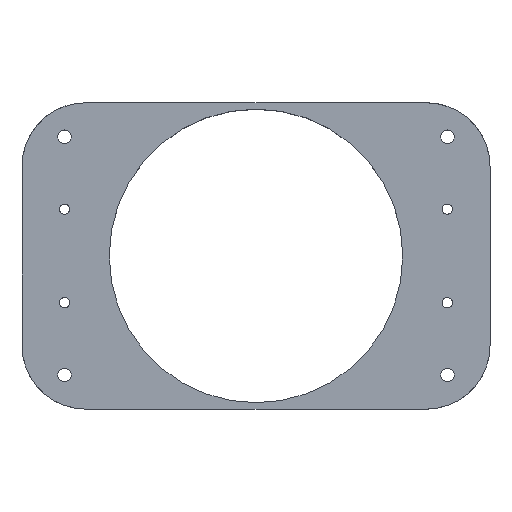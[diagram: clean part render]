
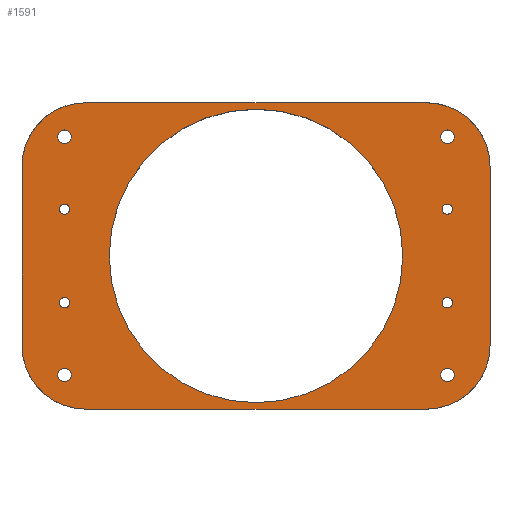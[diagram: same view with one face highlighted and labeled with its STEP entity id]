
A CAD part, top view. The second image highlights one B-rep face of the part: STEP entity #1591.
In plain terms, the highlighted planar face has unit normal (0, 0, 1).
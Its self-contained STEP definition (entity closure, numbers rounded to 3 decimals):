
#35=FACE_BOUND('',#353,.T.);
#36=FACE_BOUND('',#354,.T.);
#37=FACE_BOUND('',#355,.T.);
#38=FACE_BOUND('',#356,.T.);
#39=FACE_BOUND('',#357,.T.);
#40=FACE_BOUND('',#358,.T.);
#41=FACE_BOUND('',#359,.T.);
#42=FACE_BOUND('',#360,.T.);
#43=FACE_BOUND('',#361,.T.);
#167=PLANE('',#1714);
#250=FACE_OUTER_BOUND('',#352,.T.);
#352=EDGE_LOOP('',(#1432,#1433,#1434,#1435,#1436,#1437,#1438,#1439));
#353=EDGE_LOOP('',(#1440,#1441));
#354=EDGE_LOOP('',(#1442,#1443));
#355=EDGE_LOOP('',(#1444));
#356=EDGE_LOOP('',(#1445));
#357=EDGE_LOOP('',(#1446));
#358=EDGE_LOOP('',(#1447));
#359=EDGE_LOOP('',(#1448));
#360=EDGE_LOOP('',(#1449));
#361=EDGE_LOOP('',(#1450));
#374=CIRCLE('',#1606,1.2);
#376=CIRCLE('',#1609,1.2);
#378=CIRCLE('',#1612,1.2);
#379=CIRCLE('',#1614,1.2);
#395=CIRCLE('',#1688,1.6);
#396=CIRCLE('',#1690,1.6);
#397=CIRCLE('',#1692,1.6);
#398=CIRCLE('',#1694,1.6);
#399=CIRCLE('',#1696,1.2);
#400=CIRCLE('',#1698,1.2);
#409=CIRCLE('',#1712,15.);
#410=CIRCLE('',#1715,15.);
#411=CIRCLE('',#1716,15.);
#412=CIRCLE('',#1717,15.);
#413=CIRCLE('',#1718,34.5);
#528=LINE('',#2946,#650);
#530=LINE('',#2950,#652);
#531=LINE('',#2954,#653);
#532=LINE('',#2958,#654);
#650=VECTOR('',#2065,10.);
#652=VECTOR('',#2069,10.);
#653=VECTOR('',#2072,10.);
#654=VECTOR('',#2075,10.);
#661=VERTEX_POINT('',#2114);
#664=VERTEX_POINT('',#2119);
#667=VERTEX_POINT('',#2126);
#668=VERTEX_POINT('',#2128);
#784=VERTEX_POINT('',#2745);
#785=VERTEX_POINT('',#2749);
#786=VERTEX_POINT('',#2753);
#787=VERTEX_POINT('',#2757);
#788=VERTEX_POINT('',#2761);
#789=VERTEX_POINT('',#2765);
#802=VERTEX_POINT('',#2939);
#803=VERTEX_POINT('',#2941);
#804=VERTEX_POINT('',#2945);
#805=VERTEX_POINT('',#2949);
#806=VERTEX_POINT('',#2951);
#807=VERTEX_POINT('',#2953);
#808=VERTEX_POINT('',#2955);
#809=VERTEX_POINT('',#2957);
#810=VERTEX_POINT('',#2960);
#815=EDGE_CURVE('',#661,#664,#374,.T.);
#818=EDGE_CURVE('',#668,#667,#376,.T.);
#821=EDGE_CURVE('',#664,#661,#378,.T.);
#822=EDGE_CURVE('',#667,#668,#379,.T.);
#989=EDGE_CURVE('',#784,#784,#395,.T.);
#991=EDGE_CURVE('',#785,#785,#396,.T.);
#993=EDGE_CURVE('',#786,#786,#397,.T.);
#995=EDGE_CURVE('',#787,#787,#398,.T.);
#997=EDGE_CURVE('',#788,#788,#399,.T.);
#999=EDGE_CURVE('',#789,#789,#400,.T.);
#1021=EDGE_CURVE('',#802,#803,#409,.T.);
#1023=EDGE_CURVE('',#803,#804,#528,.T.);
#1025=EDGE_CURVE('',#805,#802,#530,.T.);
#1026=EDGE_CURVE('',#806,#805,#410,.T.);
#1027=EDGE_CURVE('',#807,#806,#531,.T.);
#1028=EDGE_CURVE('',#808,#807,#411,.T.);
#1029=EDGE_CURVE('',#809,#808,#532,.T.);
#1030=EDGE_CURVE('',#804,#809,#412,.T.);
#1031=EDGE_CURVE('',#810,#810,#413,.T.);
#1432=ORIENTED_EDGE('',*,*,#1021,.F.);
#1433=ORIENTED_EDGE('',*,*,#1025,.F.);
#1434=ORIENTED_EDGE('',*,*,#1026,.F.);
#1435=ORIENTED_EDGE('',*,*,#1027,.F.);
#1436=ORIENTED_EDGE('',*,*,#1028,.F.);
#1437=ORIENTED_EDGE('',*,*,#1029,.F.);
#1438=ORIENTED_EDGE('',*,*,#1030,.F.);
#1439=ORIENTED_EDGE('',*,*,#1023,.F.);
#1440=ORIENTED_EDGE('',*,*,#821,.T.);
#1441=ORIENTED_EDGE('',*,*,#815,.T.);
#1442=ORIENTED_EDGE('',*,*,#818,.T.);
#1443=ORIENTED_EDGE('',*,*,#822,.T.);
#1444=ORIENTED_EDGE('',*,*,#997,.T.);
#1445=ORIENTED_EDGE('',*,*,#999,.T.);
#1446=ORIENTED_EDGE('',*,*,#1031,.T.);
#1447=ORIENTED_EDGE('',*,*,#995,.T.);
#1448=ORIENTED_EDGE('',*,*,#993,.T.);
#1449=ORIENTED_EDGE('',*,*,#991,.T.);
#1450=ORIENTED_EDGE('',*,*,#989,.T.);
#1591=ADVANCED_FACE('',(#250,#35,#36,#37,#38,#39,#40,#41,#42,#43),#167,
 .T.);
#1606=AXIS2_PLACEMENT_3D('',#2121,#1740,#1741);
#1609=AXIS2_PLACEMENT_3D('',#2129,#1747,#1748);
#1612=AXIS2_PLACEMENT_3D('',#2133,#1754,#1755);
#1614=AXIS2_PLACEMENT_3D('',#2135,#1758,#1759);
#1688=AXIS2_PLACEMENT_3D('',#2746,#2002,#2003);
#1690=AXIS2_PLACEMENT_3D('',#2750,#2007,#2008);
#1692=AXIS2_PLACEMENT_3D('',#2754,#2012,#2013);
#1694=AXIS2_PLACEMENT_3D('',#2758,#2017,#2018);
#1696=AXIS2_PLACEMENT_3D('',#2762,#2022,#2023);
#1698=AXIS2_PLACEMENT_3D('',#2766,#2027,#2028);
#1712=AXIS2_PLACEMENT_3D('',#2942,#2060,#2061);
#1714=AXIS2_PLACEMENT_3D('',#2948,#2067,#2068);
#1715=AXIS2_PLACEMENT_3D('',#2952,#2070,#2071);
#1716=AXIS2_PLACEMENT_3D('',#2956,#2073,#2074);
#1717=AXIS2_PLACEMENT_3D('',#2959,#2076,#2077);
#1718=AXIS2_PLACEMENT_3D('',#2961,#2078,#2079);
#1740=DIRECTION('center_axis',(0.,0.,-1.));
#1741=DIRECTION('ref_axis',(-1.,0.,0.));
#1747=DIRECTION('center_axis',(0.,0.,-1.));
#1748=DIRECTION('ref_axis',(-1.,0.,0.));
#1754=DIRECTION('center_axis',(0.,0.,-1.));
#1755=DIRECTION('ref_axis',(-1.,0.,0.));
#1758=DIRECTION('center_axis',(0.,0.,-1.));
#1759=DIRECTION('ref_axis',(-1.,0.,0.));
#2002=DIRECTION('center_axis',(0.,0.,-1.));
#2003=DIRECTION('ref_axis',(-1.,0.,0.));
#2007=DIRECTION('center_axis',(0.,0.,-1.));
#2008=DIRECTION('ref_axis',(-1.,0.,0.));
#2012=DIRECTION('center_axis',(0.,0.,-1.));
#2013=DIRECTION('ref_axis',(-1.,0.,0.));
#2017=DIRECTION('center_axis',(0.,0.,-1.));
#2018=DIRECTION('ref_axis',(-1.,0.,0.));
#2022=DIRECTION('center_axis',(0.,0.,-1.));
#2023=DIRECTION('ref_axis',(-1.,0.,0.));
#2027=DIRECTION('center_axis',(0.,0.,-1.));
#2028=DIRECTION('ref_axis',(-1.,0.,0.));
#2060=DIRECTION('center_axis',(0.,0.,-1.));
#2061=DIRECTION('ref_axis',(0.707,0.707,0.));
#2065=DIRECTION('',(0.,-1.,0.));
#2067=DIRECTION('center_axis',(0.,0.,1.));
#2068=DIRECTION('ref_axis',(-1.,0.,0.));
#2069=DIRECTION('',(1.,0.,0.));
#2070=DIRECTION('center_axis',(0.,0.,-1.));
#2071=DIRECTION('ref_axis',(-0.707,0.707,0.));
#2072=DIRECTION('',(0.,1.,0.));
#2073=DIRECTION('center_axis',(0.,0.,-1.));
#2074=DIRECTION('ref_axis',(-0.707,-0.707,0.));
#2075=DIRECTION('',(-1.,0.,0.));
#2076=DIRECTION('center_axis',(0.,0.,-1.));
#2077=DIRECTION('ref_axis',(0.707,-0.707,0.));
#2078=DIRECTION('center_axis',(0.,0.,-1.));
#2079=DIRECTION('ref_axis',(-1.,0.,0.));
#2114=CARTESIAN_POINT('',(-45.004,9.806,-0.5));
#2119=CARTESIAN_POINT('',(-45.004,12.204,-0.5));
#2121=CARTESIAN_POINT('Origin',(-45.056,11.005,-0.5));
#2126=CARTESIAN_POINT('',(-45.,-12.199,-0.5));
#2128=CARTESIAN_POINT('',(-45.,-9.801,-0.5));
#2129=CARTESIAN_POINT('Origin',(-44.952,-11.,-0.5));
#2133=CARTESIAN_POINT('Origin',(-44.952,11.005,-0.5));
#2135=CARTESIAN_POINT('Origin',(-45.048,-11.,-0.5));
#2745=CARTESIAN_POINT('',(-43.4,-28.,-0.5));
#2746=CARTESIAN_POINT('Origin',(-45.,-28.,-0.5));
#2749=CARTESIAN_POINT('',(-43.4,28.,-0.5));
#2750=CARTESIAN_POINT('Origin',(-45.,28.,-0.5));
#2753=CARTESIAN_POINT('',(46.6,-28.,-0.5));
#2754=CARTESIAN_POINT('Origin',(45.,-28.,-0.5));
#2757=CARTESIAN_POINT('',(46.6,28.,-0.5));
#2758=CARTESIAN_POINT('Origin',(45.,28.,-0.5));
#2761=CARTESIAN_POINT('',(46.152,11.005,-0.5));
#2762=CARTESIAN_POINT('Origin',(44.952,11.005,-0.5));
#2765=CARTESIAN_POINT('',(46.152,-11.,-0.5));
#2766=CARTESIAN_POINT('Origin',(44.952,-11.,-0.5));
#2939=CARTESIAN_POINT('',(40.,36.,-0.5));
#2941=CARTESIAN_POINT('',(55.,21.,-0.5));
#2942=CARTESIAN_POINT('Origin',(40.,21.,-0.5));
#2945=CARTESIAN_POINT('',(55.,-21.,-0.5));
#2946=CARTESIAN_POINT('',(55.,36.,-0.5));
#2948=CARTESIAN_POINT('Origin',(0.,0.,-0.5));
#2949=CARTESIAN_POINT('',(-40.,36.,-0.5));
#2950=CARTESIAN_POINT('',(-55.,36.,-0.5));
#2951=CARTESIAN_POINT('',(-55.,21.,-0.5));
#2952=CARTESIAN_POINT('Origin',(-40.,21.,-0.5));
#2953=CARTESIAN_POINT('',(-55.,-21.,-0.5));
#2954=CARTESIAN_POINT('',(-55.,-36.,-0.5));
#2955=CARTESIAN_POINT('',(-40.,-36.,-0.5));
#2956=CARTESIAN_POINT('Origin',(-40.,-21.,-0.5));
#2957=CARTESIAN_POINT('',(40.,-36.,-0.5));
#2958=CARTESIAN_POINT('',(55.,-36.,-0.5));
#2959=CARTESIAN_POINT('Origin',(40.,-21.,-0.5));
#2960=CARTESIAN_POINT('',(34.5,0.,-0.5));
#2961=CARTESIAN_POINT('Origin',(0.,0.,-0.5));
